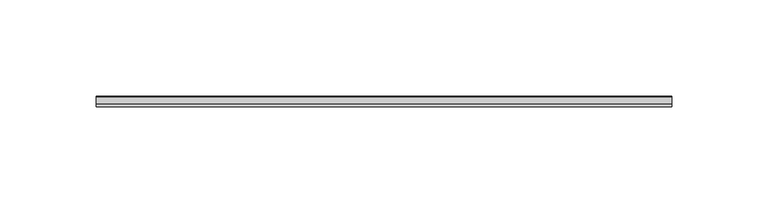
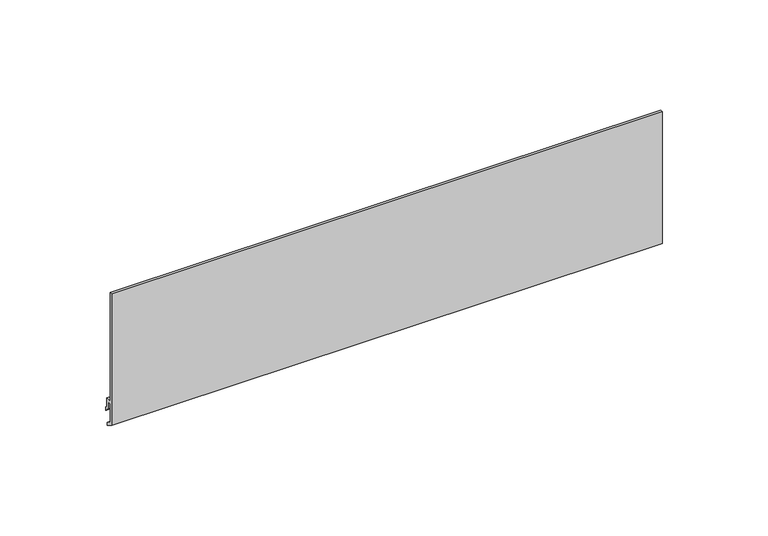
"""IFC4 building model written with IfcOpenShell, lengths in millimetres: plate geometry, FastPlank_P44V-V-Notch-4″-Plank-Horizontal : P44V-V-Notch-4″-Plank-Horizontal."""

from ifc_helpers import new_model, si_unit, frame, origin, place, context, project, spatial, polyline, outline, extrude, source, transform, mapped, element, save


def plate_9753ce40(model_context):
    return source(origin(), model_context, "Body", "SweptSolid", [
        extrude(outline(polyline([(-18.8745946, 2.3957023), (-18.8745946, 78.3636711), (-17.5745972, 78.3636711), (-17.5745972, 15.4863039), (-14.0246043, 15.4863039), (-14.0246043, 10.5877112), (-13.3162936, 9.8794005), (-13.3162936, 7.7608499), (-15.5246013, 9.9691576), (-15.5246013, 13.9827581), (-17.3745976, 13.9827581), (-17.3745976, 3.2617795), (-14.7246029, 1.7319938), (-14.7246029, 0.0), (-18.8745946, 2.3957023)])), frame((-149.8797454, 0.0, 0.0), z_axis=(1.0, 0.0, 0.0), x_axis=(0.0, 1.0, 0.0)), (0.0, 0.0, 1.0), 299.7594908),
    ])


if __name__ == "__main__":
    model = new_model("IFC4")
    model_context = context("Model", 3, world=origin())
    ifc_project = project(units=[si_unit("LENGTHUNIT", "METRE", prefix="MILLI")], contexts=[model_context])
    site = spatial("IfcSite", under=ifc_project)
    building = spatial("IfcBuilding", under=site)
    placement = place(None, origin())
    plate_shape = plate_9753ce40(model_context)
    element("IfcPlate", 1, ObjectType="FastPlank_P44V-V-Notch-4″-Plank-Horizontal : P44V-V-Notch-4″-Plank-Horizontal", at=placement, inside=building, context=model_context, shape_type="MappedRepresentation", body=[
        mapped(plate_shape, transform((0.0, 0.0, 0.0), x_axis=(1.0, 0.0, 0.0), y_axis=(0.0, 1.0, 0.0), z_axis=(0.0, 0.0, 1.0))),
    ])
    save(model, "model.ifc")
